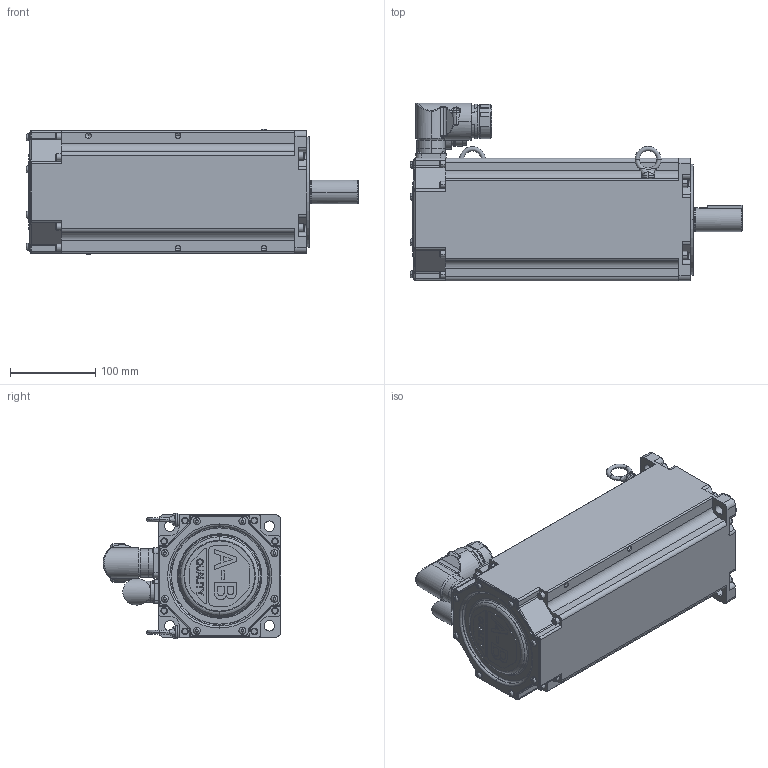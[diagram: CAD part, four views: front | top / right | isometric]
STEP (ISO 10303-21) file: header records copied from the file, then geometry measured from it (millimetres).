
FILE_DESCRIPTION (( 'STEP AP214' ), '1' );
FILE_NAME ('Rockwell Automation-MPM_Medium_Inertia_Motor-MPM-A1652F-xx74xx.STEP', '2012-04-19T01:53:40', ( 'sysAdmin' ), ( 'SolidWorks' ), 'SwSTEP 2.0', 'SolidWorks 2012', '' );
FILE_SCHEMA (( 'AUTOMOTIVE_DESIGN' ));
Length unit declared in the file: inch
Products named in the file (6): Rockwell Automation-MPM_Medium_Inertia_Motor-MPM-A1652F-xx74xx_MPM-xxx-Eyebolt; Rockwell Automation-MPM_Medium_Inertia_Motor-MPM-A1652F-xx74xx_MPM-xxxx-Power Connector-M40; Rockwell Automation-MPM_Medium_Inertia_Motor-MPM-A1652F-xx74xx_MPM-xxxx-Encoder Connector; Rockwell Automation-MPM_Medium_Inertia_Motor-MPM-A1652F-xx74xx_MPM-165x-Shaft_1652-SHAFT-KEY; Rockwell Automation-MPM_Medium_Inertia_Motor-MPM-A1652F-xx74xx_MPM-165x-body_A1652F-BRAKE; Rockwell Automation-MPM_Medium_Inertia_Motor-MPM-A1652F-xx74xx
Assembly tree (6 placements, depth 2):
  Rockwell Automation-MPM_Medium_Inertia_Motor-MPM-A1652F-xx74xx
    Rockwell Automation-MPM_Medium_Inertia_Motor-MPM-A1652F-xx74xx_MPM-165x-body_A1652F-BRAKE
    Rockwell Automation-MPM_Medium_Inertia_Motor-MPM-A1652F-xx74xx_MPM-165x-Shaft_1652-SHAFT-KEY
    Rockwell Automation-MPM_Medium_Inertia_Motor-MPM-A1652F-xx74xx_MPM-xxxx-Encoder Connector
    Rockwell Automation-MPM_Medium_Inertia_Motor-MPM-A1652F-xx74xx_MPM-xxxx-Power Connector-M40
    Rockwell Automation-MPM_Medium_Inertia_Motor-MPM-A1652F-xx74xx_MPM-xxx-Eyebolt  x2
Bounding box: 388.92 x 208.24 x 147.22 mm (x, y, z)
Volume: 3246274.7 mm3; surface area: 497772.3 mm2
Topology: 7 solids, 7 shells, 1102 faces, 2699 edges, 1712 vertices
Faces by surface type: plane 424, cylinder 398, torus 130, cone 99, bspline 51
Entity records: 38086 total; most frequent: CARTESIAN_POINT 9926, DIRECTION 5676, ORIENTED_EDGE 5292, EDGE_CURVE 2646, AXIS2_PLACEMENT_3D 2163, VERTEX_POINT 1686, LINE 1350, VECTOR 1350
